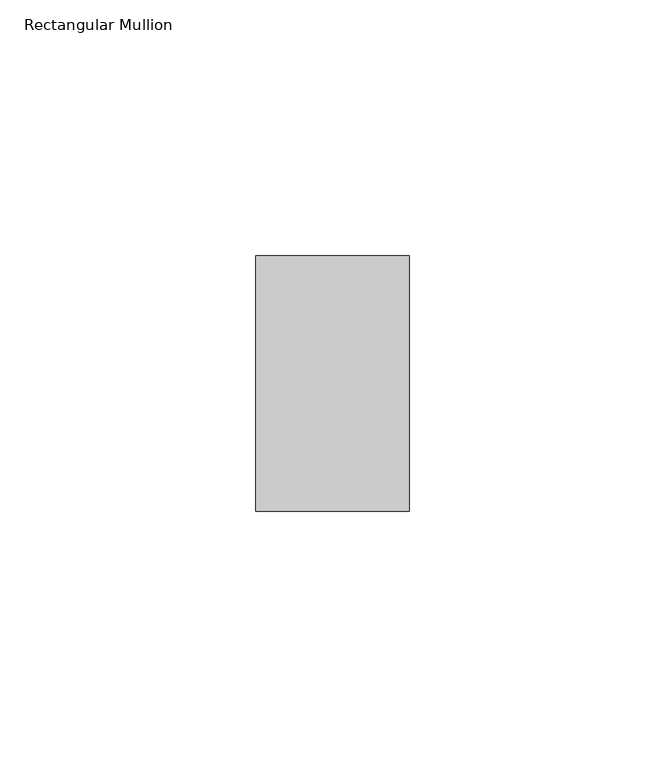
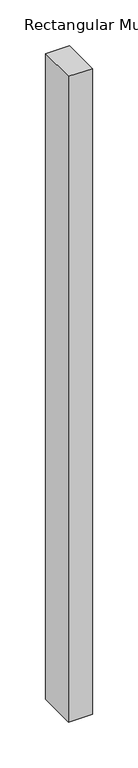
"""IFC4 building model written with IfcOpenShell, lengths in millimetres: member geometry, Rectangular Mullion : ARQ_TV_MULL_50x30mm."""

from ifc_helpers import new_model, si_unit, frame, origin, place, context, project, spatial, polyline, outline, extrude, source, transform, mapped, element, save


def rectangular_mullion_2d022f73(model_context):
    return source(origin(), model_context, "Body", "SweptSolid", [
        extrude(outline(polyline([(0.0, 25.0), (0.0, -25.0), (-30.0, -25.0), (-30.0, 25.0), (0.0, 25.0)])), frame((0.0, 0.0, -860.0000001), z_axis=(0.0, 0.0, 1.0), x_axis=(1.0, 0.0, 0.0)), (0.0, 0.0, 1.0), 860.0000001),
    ])


if __name__ == "__main__":
    model = new_model("IFC4")
    model_context = context("Model", 3, world=origin())
    ifc_project = project(units=[si_unit("LENGTHUNIT", "METRE", prefix="MILLI")], contexts=[model_context])
    site = spatial("IfcSite", under=ifc_project)
    building = spatial("IfcBuilding", under=site)
    placement = place(None, origin())
    rectangular_mullion_shape = rectangular_mullion_2d022f73(model_context)
    element("IfcMember", 1, ObjectType="Rectangular Mullion : ARQ_TV_MULL_50x30mm", at=placement, inside=building, context=model_context, shape_type="MappedRepresentation", body=[
        mapped(rectangular_mullion_shape, transform((0.0, 0.0, 0.0), x_axis=(1.0, 0.0, 0.0), y_axis=(0.0, 1.0, 0.0), z_axis=(0.0, 0.0, 1.0))),
    ])
    save(model, "model.ifc")
